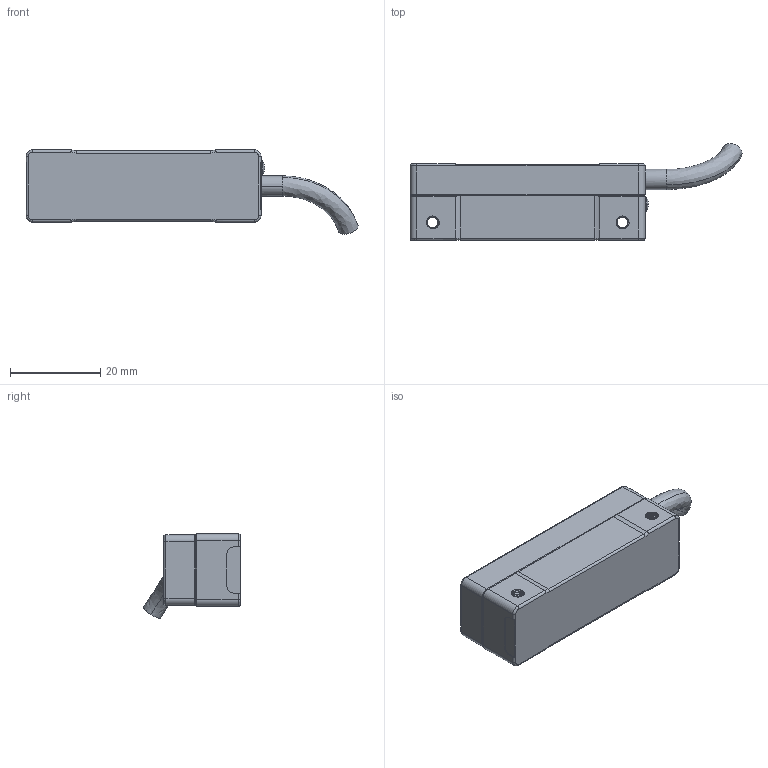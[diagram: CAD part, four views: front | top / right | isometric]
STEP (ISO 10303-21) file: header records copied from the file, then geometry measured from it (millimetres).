
FILE_DESCRIPTION (( 'STEP AP214' ), '1' );
FILE_NAME ('LA11_readhead-1.STEP', '2020-09-09T12:08:35', ( '' ), ( '' ), 'SwSTEP 2.0', 'SolidWorks 2016', '' );
FILE_SCHEMA (( 'AUTOMOTIVE_DESIGN' ));
Length unit declared in the file: millimetre
Products named in the file (1): LA11_readhead-1
Bounding box: 73.46 x 21.46 x 18.65 mm (x, y, z)
Volume: 13837.4 mm3; surface area: 4816 mm2
Topology: 1 solids, 1 shells, 325 faces, 890 edges, 571 vertices
Faces by surface type: cylinder 194, plane 69, cone 38, bspline 24
Entity records: 17399 total; most frequent: CARTESIAN_POINT 9437, ORIENTED_EDGE 1768, DIRECTION 1258, EDGE_CURVE 884, VERTEX_POINT 571, AXIS2_PLACEMENT_3D 438, LINE 382, VECTOR 382
